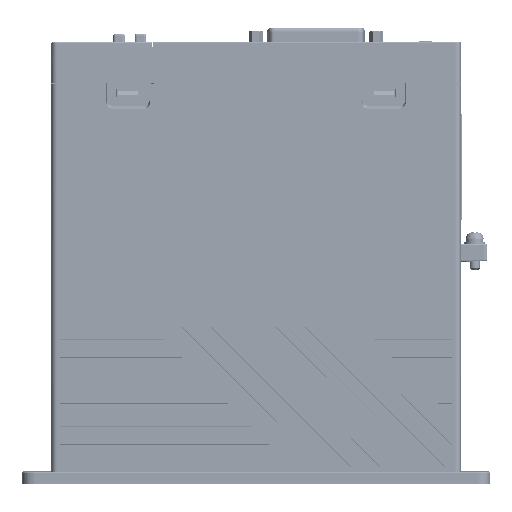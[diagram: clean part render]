
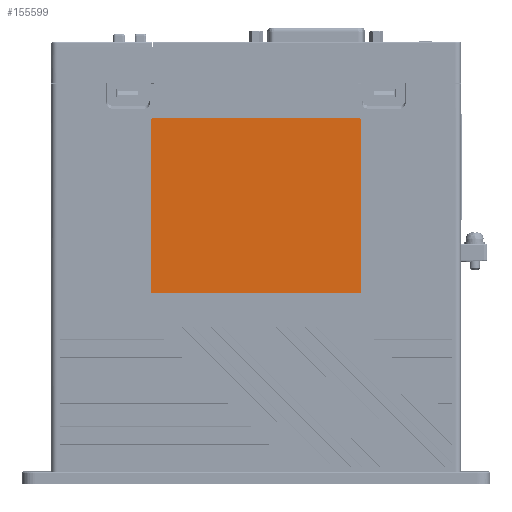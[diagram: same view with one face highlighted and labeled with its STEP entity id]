
A CAD part, top view. The second image highlights one B-rep face of the part: STEP entity #155599.
In plain terms, the highlighted planar face has unit normal (0, 0, 1).
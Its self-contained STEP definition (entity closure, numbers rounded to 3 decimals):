
#49200=DIRECTION('',(0.,1.,0.));
#49201=VECTOR('',#49200,67.407);
#49202=CARTESIAN_POINT('',(132.5,75.096,-2.85));
#49203=LINE('',#49202,#49201);
#49204=CARTESIAN_POINT('',(132.5,142.504,-2.85));
#49205=CARTESIAN_POINT('',(132.5,142.545,-2.85));
#49206=CARTESIAN_POINT('',(132.49,142.618,-2.85));
#49207=CARTESIAN_POINT('',(132.448,142.741,-2.85));
#49208=CARTESIAN_POINT('',(132.362,142.862,-2.85));
#49209=CARTESIAN_POINT('',(132.241,142.948,-2.85));
#49210=CARTESIAN_POINT('',(132.118,142.99,-2.85));
#49211=CARTESIAN_POINT('',(132.045,143.,-2.85));
#49212=CARTESIAN_POINT('',(132.004,143.,-2.85));
#49228=CARTESIAN_POINT('',(50.996,143.,-2.85));
#49229=CARTESIAN_POINT('',(50.955,143.,-2.85));
#49230=CARTESIAN_POINT('',(50.882,142.99,-2.85));
#49231=CARTESIAN_POINT('',(50.759,142.948,-2.85));
#49232=CARTESIAN_POINT('',(50.638,142.862,-2.85));
#49233=CARTESIAN_POINT('',(50.552,142.741,-2.85));
#49234=CARTESIAN_POINT('',(50.51,142.618,-2.85));
#49235=CARTESIAN_POINT('',(50.5,142.545,-2.85));
#49236=CARTESIAN_POINT('',(50.5,142.504,-2.85));
#49256=DIRECTION('',(0.,-1.,0.));
#49257=VECTOR('',#49256,67.407);
#49258=CARTESIAN_POINT('',(50.5,142.504,-2.85));
#49259=LINE('',#49258,#49257);
#49260=CARTESIAN_POINT('',(50.5,75.096,-2.85));
#49261=CARTESIAN_POINT('',(50.5,75.055,-2.85));
#49262=CARTESIAN_POINT('',(50.51,74.982,-2.85));
#49263=CARTESIAN_POINT('',(50.552,74.859,-2.85));
#49264=CARTESIAN_POINT('',(50.638,74.738,-2.85));
#49265=CARTESIAN_POINT('',(50.759,74.652,-2.85));
#49266=CARTESIAN_POINT('',(50.882,74.61,-2.85));
#49267=CARTESIAN_POINT('',(50.955,74.6,-2.85));
#49268=CARTESIAN_POINT('',(50.996,74.6,-2.85));
#49288=DIRECTION('',(1.,0.,0.));
#49289=VECTOR('',#49288,81.007);
#49290=CARTESIAN_POINT('',(50.996,74.6,-2.85));
#49291=LINE('',#49290,#49289);
#49292=CARTESIAN_POINT('',(132.004,74.6,-2.85));
#49293=CARTESIAN_POINT('',(132.045,74.6,-2.85));
#49294=CARTESIAN_POINT('',(132.118,74.61,-2.85));
#49295=CARTESIAN_POINT('',(132.241,74.652,-2.85));
#49296=CARTESIAN_POINT('',(132.362,74.738,-2.85));
#49297=CARTESIAN_POINT('',(132.448,74.859,-2.85));
#49298=CARTESIAN_POINT('',(132.49,74.982,-2.85));
#49299=CARTESIAN_POINT('',(132.5,75.055,-2.85));
#49300=CARTESIAN_POINT('',(132.5,75.096,-2.85));
#49320=DIRECTION('',(-1.,0.,0.));
#49321=VECTOR('',#49320,81.007);
#49322=CARTESIAN_POINT('',(132.004,143.,-2.85));
#49323=LINE('',#49322,#49321);
#72362=CARTESIAN_POINT('',(132.5,142.504,-2.85));
#72363=VERTEX_POINT('',#72362);
#72364=CARTESIAN_POINT('',(132.5,75.096,-2.85));
#72365=VERTEX_POINT('',#72364);
#72366=VERTEX_POINT('',#49212);
#72367=VERTEX_POINT('',#49228);
#72368=VERTEX_POINT('',#49236);
#72369=VERTEX_POINT('',#49292);
#72370=CARTESIAN_POINT('',(50.996,74.6,-2.85));
#72371=VERTEX_POINT('',#72370);
#72372=VERTEX_POINT('',#49260);
#155578=CARTESIAN_POINT('',(91.5,5.,-2.85));
#155579=DIRECTION('',(0.,0.,1.));
#155580=DIRECTION('',(-1.,0.,0.));
#155581=AXIS2_PLACEMENT_3D('',#155578,#155579,#155580);
#155582=PLANE('',#155581);
#155584=ORIENTED_EDGE('',*,*,#155583,.F.);
#155586=ORIENTED_EDGE('',*,*,#155585,.F.);
#155587=ORIENTED_EDGE('',*,*,#155562,.F.);
#155588=ORIENTED_EDGE('',*,*,#155545,.F.);
#155590=ORIENTED_EDGE('',*,*,#155589,.F.);
#155592=ORIENTED_EDGE('',*,*,#155591,.F.);
#155594=ORIENTED_EDGE('',*,*,#155593,.F.);
#155596=ORIENTED_EDGE('',*,*,#155595,.F.);
#155597=EDGE_LOOP('',(#155584,#155586,#155587,#155588,#155590,#155592,#155594,
#155596));
#155598=FACE_OUTER_BOUND('',#155597,.F.);
#49213=B_SPLINE_CURVE_WITH_KNOTS('',3,(#49204,#49205,#49206,#49207,#49208,
#49209,#49210,#49211,#49212),.UNSPECIFIED.,.F.,.F.,(4,1,1,1,1,1,4),(0.,
0.125,0.25,0.5,0.75,0.875,1.),.UNSPECIFIED.);
#49237=B_SPLINE_CURVE_WITH_KNOTS('',3,(#49228,#49229,#49230,#49231,#49232,
#49233,#49234,#49235,#49236),.UNSPECIFIED.,.F.,.F.,(4,1,1,1,1,1,4),(0.,
0.125,0.25,0.5,0.75,0.875,1.),.UNSPECIFIED.);
#49269=B_SPLINE_CURVE_WITH_KNOTS('',3,(#49260,#49261,#49262,#49263,#49264,
#49265,#49266,#49267,#49268),.UNSPECIFIED.,.F.,.F.,(4,1,1,1,1,1,4),(0.,
0.125,0.25,0.5,0.75,0.875,1.),.UNSPECIFIED.);
#49301=B_SPLINE_CURVE_WITH_KNOTS('',3,(#49292,#49293,#49294,#49295,#49296,
#49297,#49298,#49299,#49300),.UNSPECIFIED.,.F.,.F.,(4,1,1,1,1,1,4),(0.,
0.125,0.25,0.5,0.75,0.875,1.),.UNSPECIFIED.);
#155545=EDGE_CURVE('',#72365,#72363,#49203,.T.);
#155562=EDGE_CURVE('',#72363,#72366,#49213,.T.);
#155583=EDGE_CURVE('',#72367,#72368,#49237,.T.);
#155585=EDGE_CURVE('',#72366,#72367,#49323,.T.);
#155589=EDGE_CURVE('',#72369,#72365,#49301,.T.);
#155591=EDGE_CURVE('',#72371,#72369,#49291,.T.);
#155593=EDGE_CURVE('',#72372,#72371,#49269,.T.);
#155595=EDGE_CURVE('',#72368,#72372,#49259,.T.);
#155599=ADVANCED_FACE('',(#155598),#155582,.T.);
